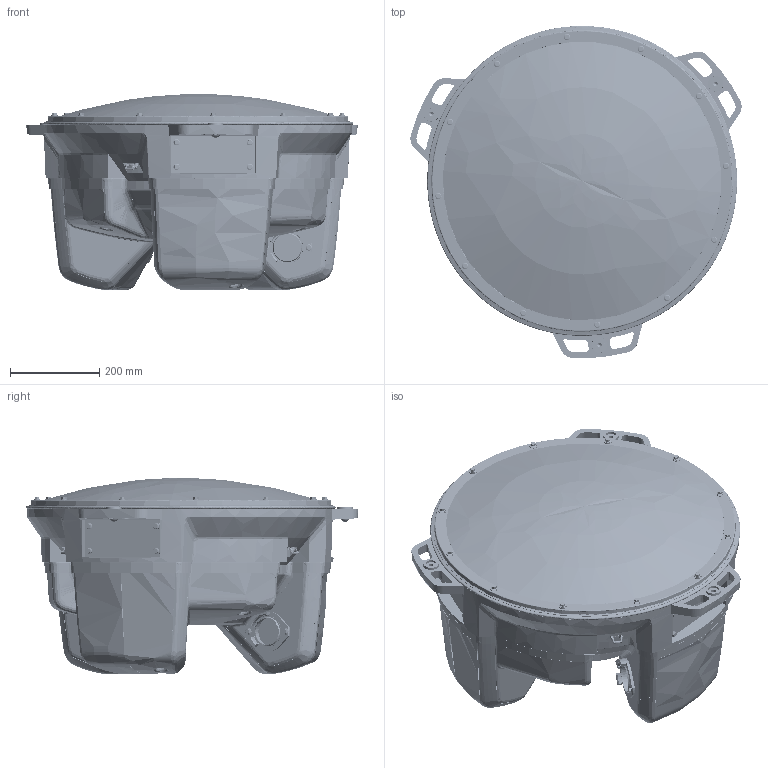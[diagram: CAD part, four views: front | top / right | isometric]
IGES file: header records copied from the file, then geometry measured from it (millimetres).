
Start section: SolidWorks IGES file using analytic representation for surfaces
Global section: file name: C:\Users\SELUHAA\Desktop\Work items\545792\IGES\IRB360_X-800-WD-4D_rev03_IGES_J\IRB360_X-800-WD-4D_rev03_BASE_CAD.IGS; native system: SolidWorks 2022; preprocessor: SolidWorks 2022; author: SELUHAA; date: 240115.132732; units: millimetre
Bounding box: 742.52 x 744.16 x 439 mm (x, y, z)
Surface area: 3142484 mm2 (no closed solid volume)
Topology: 0 solids, 0 shells, 2601 faces, 39060 edges, 39034 vertices
Faces by surface type: bspline 1461, revolution 1140
